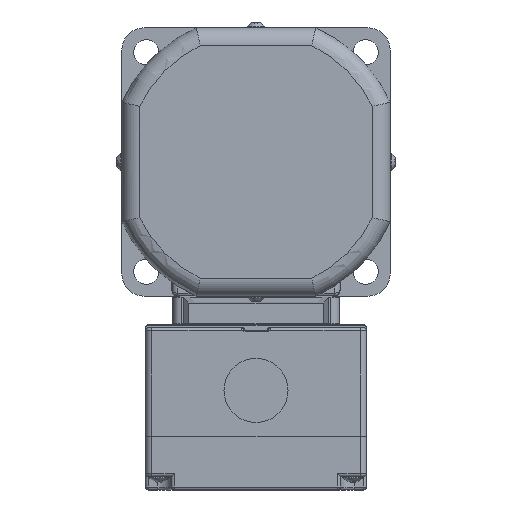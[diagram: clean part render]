
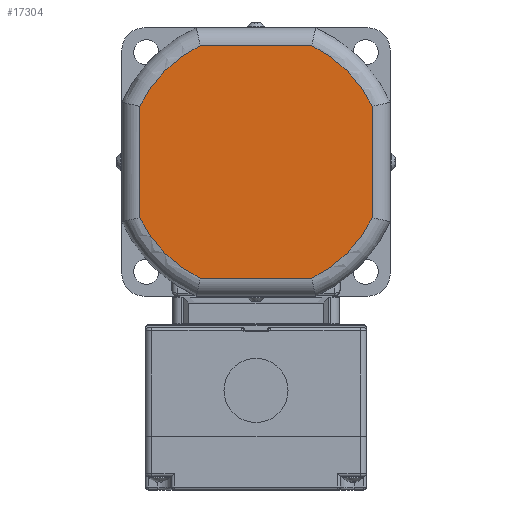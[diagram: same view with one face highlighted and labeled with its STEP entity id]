
A CAD part, left-side view. The second image highlights one B-rep face of the part: STEP entity #17304.
In plain terms, the highlighted planar face has unit normal (-1, 0, 0).
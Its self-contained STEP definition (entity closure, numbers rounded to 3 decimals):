
#1528=CIRCLE('',#18882,43.25);
#1529=CIRCLE('',#18883,43.25);
#1530=CIRCLE('',#18884,43.25);
#1531=CIRCLE('',#18885,43.25);
#2437=FACE_OUTER_BOUND('',#3500,.T.);
#3500=EDGE_LOOP('',(#14575,#14576,#14577,#14578,#14579,#14580,#14581,#14582));
#4945=LINE('',#30656,#6325);
#4946=LINE('',#30660,#6326);
#4947=LINE('',#30664,#6327);
#4948=LINE('',#30668,#6328);
#6325=VECTOR('',#23247,37.393);
#6326=VECTOR('',#23250,37.393);
#6327=VECTOR('',#23253,37.393);
#6328=VECTOR('',#23256,37.393);
#7844=VERTEX_POINT('',#30654);
#7845=VERTEX_POINT('',#30655);
#7846=VERTEX_POINT('',#30657);
#7847=VERTEX_POINT('',#30659);
#7848=VERTEX_POINT('',#30661);
#7849=VERTEX_POINT('',#30663);
#7850=VERTEX_POINT('',#30665);
#7851=VERTEX_POINT('',#30667);
#10129=EDGE_CURVE('',#7844,#7845,#4945,.T.);
#10130=EDGE_CURVE('',#7846,#7844,#1528,.T.);
#10131=EDGE_CURVE('',#7847,#7846,#4946,.T.);
#10132=EDGE_CURVE('',#7848,#7847,#1529,.T.);
#10133=EDGE_CURVE('',#7849,#7848,#4947,.T.);
#10134=EDGE_CURVE('',#7850,#7849,#1530,.T.);
#10135=EDGE_CURVE('',#7851,#7850,#4948,.T.);
#10136=EDGE_CURVE('',#7845,#7851,#1531,.T.);
#14575=ORIENTED_EDGE('',*,*,#10129,.F.);
#14576=ORIENTED_EDGE('',*,*,#10130,.F.);
#14577=ORIENTED_EDGE('',*,*,#10131,.F.);
#14578=ORIENTED_EDGE('',*,*,#10132,.F.);
#14579=ORIENTED_EDGE('',*,*,#10133,.F.);
#14580=ORIENTED_EDGE('',*,*,#10134,.F.);
#14581=ORIENTED_EDGE('',*,*,#10135,.F.);
#14582=ORIENTED_EDGE('',*,*,#10136,.F.);
#15509=PLANE('',#18881);
#17304=ADVANCED_FACE('',(#2437),#15509,.F.);
#18881=AXIS2_PLACEMENT_3D('',#30653,#23245,#23246);
#18882=AXIS2_PLACEMENT_3D('',#30658,#23248,#23249);
#18883=AXIS2_PLACEMENT_3D('',#30662,#23251,#23252);
#18884=AXIS2_PLACEMENT_3D('',#30666,#23254,#23255);
#18885=AXIS2_PLACEMENT_3D('',#30669,#23257,#23258);
#23245=DIRECTION('center_axis',(1.,0.,0.));
#23246=DIRECTION('ref_axis',(0.,0.,-1.));
#23247=DIRECTION('',(0.,0.,1.));
#23248=DIRECTION('center_axis',(1.,0.,0.));
#23249=DIRECTION('ref_axis',(0.,0.707,-0.707));
#23250=DIRECTION('',(0.,1.,0.));
#23251=DIRECTION('center_axis',(1.,0.,0.));
#23252=DIRECTION('ref_axis',(0.,-0.707,-0.707));
#23253=DIRECTION('',(0.,0.,-1.));
#23254=DIRECTION('center_axis',(1.,0.,0.));
#23255=DIRECTION('ref_axis',(0.,-0.707,0.707));
#23256=DIRECTION('',(0.,-1.,0.));
#23257=DIRECTION('center_axis',(1.,0.,0.));
#23258=DIRECTION('ref_axis',(0.,0.707,0.707));
#30653=CARTESIAN_POINT('Origin',(-17.8,0.,
0.));
#30654=CARTESIAN_POINT('',(-17.8,39.,-18.697));
#30655=CARTESIAN_POINT('',(-17.8,39.,18.697));
#30656=CARTESIAN_POINT('',(-17.8,39.,-18.697));
#30657=CARTESIAN_POINT('',(-17.8,18.697,-39.));
#30658=CARTESIAN_POINT('Origin',(-17.8,0.,
0.));
#30659=CARTESIAN_POINT('',(-17.8,-18.697,-39.));
#30660=CARTESIAN_POINT('',(-17.8,-18.697,-39.));
#30661=CARTESIAN_POINT('',(-17.8,-39.,-18.697));
#30662=CARTESIAN_POINT('Origin',(-17.8,0.,
0.));
#30663=CARTESIAN_POINT('',(-17.8,-39.,18.697));
#30664=CARTESIAN_POINT('',(-17.8,-39.,18.697));
#30665=CARTESIAN_POINT('',(-17.8,-18.697,39.));
#30666=CARTESIAN_POINT('Origin',(-17.8,0.,
0.));
#30667=CARTESIAN_POINT('',(-17.8,18.697,39.));
#30668=CARTESIAN_POINT('',(-17.8,18.697,39.));
#30669=CARTESIAN_POINT('Origin',(-17.8,0.,
0.));
